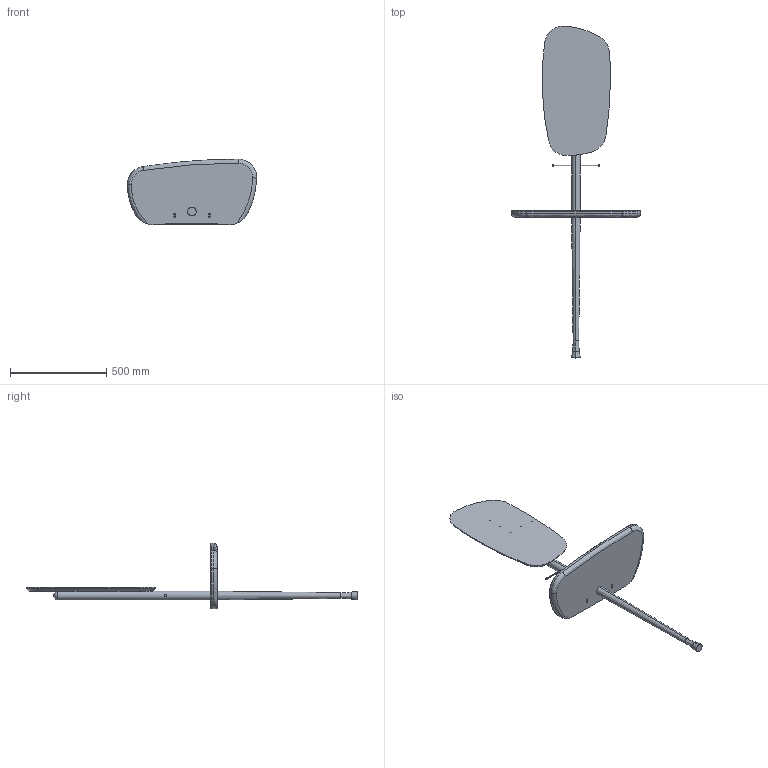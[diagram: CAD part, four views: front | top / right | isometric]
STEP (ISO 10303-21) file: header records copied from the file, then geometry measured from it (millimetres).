
FILE_DESCRIPTION (( 'STEP AP214' ), '1' );
FILE_NAME ('RECIBIDOR.STEP', '2017-10-09T07:46:41', ( 'Usuario' ), ( '' ), 'SwSTEP 2.0', 'SolidWorks 2016', '' );
FILE_SCHEMA (( 'AUTOMOTIVE_DESIGN' ));
Length unit declared in the file: millimetre
Products named in the file (11): 6_ESPEJO_CRISTAL; 7_VARILLA_LATON; ESPARRAGO_M10; 3_ANCLAJE_RECIBIDOR; RECIBIDOR; 2_REPISA_NOGAL; 1_PALO_BASE; 5_SOPORTE_ESPEJO; 4_PALO_ESPEJO; TORNILLO_ALLEN; 8_EMBELLECEDOR_VARILLA
Assembly tree (11 placements, depth 2):
  RECIBIDOR
    1_PALO_BASE
    2_REPISA_NOGAL
    3_ANCLAJE_RECIBIDOR
    ESPARRAGO_M10
    4_PALO_ESPEJO
    5_SOPORTE_ESPEJO
    6_ESPEJO_CRISTAL
    TORNILLO_ALLEN  x2
    7_VARILLA_LATON
    8_EMBELLECEDOR_VARILLA
Bounding box: 670 x 1720.67 x 340 mm (x, y, z)
Volume: 11571850.9 mm3; surface area: 1569940.9 mm2
Topology: 11 solids, 11 shells, 243 faces, 587 edges, 377 vertices
Faces by surface type: cylinder 114, plane 81, bspline 25, cone 23
Entity records: 11238 total; most frequent: CARTESIAN_POINT 2819, DIRECTION 1182, ORIENTED_EDGE 1110, EDGE_CURVE 555, AXIS2_PLACEMENT_3D 470, VERTEX_POINT 357, EDGE_LOOP 276, UNCERTAINTY_MEASURE_WITH_UNIT 260
